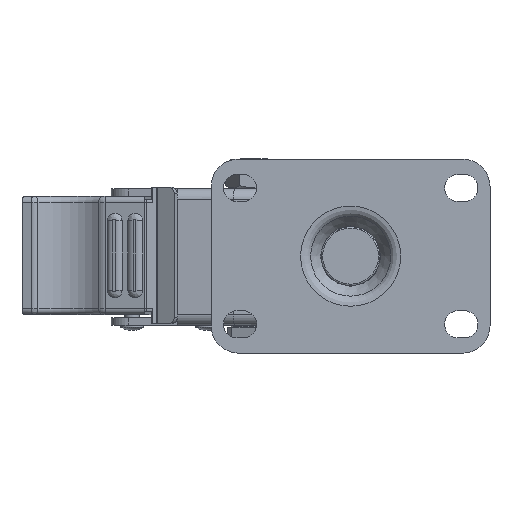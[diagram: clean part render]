
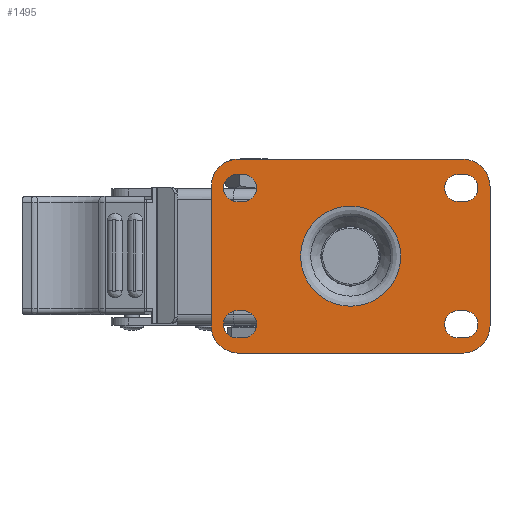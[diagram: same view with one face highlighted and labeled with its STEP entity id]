
A CAD part, top view. The second image highlights one B-rep face of the part: STEP entity #1495.
In plain terms, the highlighted planar face has unit normal (0, 0, 1).
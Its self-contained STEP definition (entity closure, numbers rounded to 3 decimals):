
#1495=ADVANCED_FACE('',(#6670,#6671,#6672,#6673,#6674,#6675),#2537,.F.);
#2537=PLANE('',#19464);
#3814=LINE('',#27675,#5233);
#3815=LINE('',#27680,#5234);
#3816=LINE('',#27683,#5235);
#3817=LINE('',#27688,#5236);
#3818=LINE('',#27691,#5237);
#3819=LINE('',#27696,#5238);
#3820=LINE('',#27699,#5239);
#3821=LINE('',#27704,#5240);
#3822=LINE('',#27707,#5241);
#3823=LINE('',#27710,#5242);
#3824=LINE('',#27714,#5243);
#3825=LINE('',#27718,#5244);
#3826=LINE('',#27720,#5245);
#3827=LINE('',#27724,#5246);
#5233=VECTOR('',#21327,1.);
#5234=VECTOR('',#21330,1.);
#5235=VECTOR('',#21333,1.);
#5236=VECTOR('',#21336,1.);
#5237=VECTOR('',#21339,1.);
#5238=VECTOR('',#21342,1.);
#5239=VECTOR('',#21345,1.);
#5240=VECTOR('',#21348,1.);
#5241=VECTOR('',#21351,1.);
#5242=VECTOR('',#21352,1.);
#5243=VECTOR('',#21355,1.);
#5244=VECTOR('',#21358,1.);
#5245=VECTOR('',#21359,1.);
#5246=VECTOR('',#21362,1.);
#6670=FACE_BOUND('',#7029,.T.);
#6671=FACE_BOUND('',#7030,.T.);
#6672=FACE_BOUND('',#7031,.T.);
#6673=FACE_BOUND('',#7032,.T.);
#6674=FACE_BOUND('',#7033,.T.);
#6675=FACE_BOUND('',#7034,.T.);
#7029=EDGE_LOOP('',(#8494));
#7030=EDGE_LOOP('',(#8495,#8496,#8497,#8498));
#7031=EDGE_LOOP('',(#8499,#8500,#8501,#8502));
#7032=EDGE_LOOP('',(#8503,#8504,#8505,#8506));
#7033=EDGE_LOOP('',(#8507,#8508,#8509,#8510));
#7034=EDGE_LOOP('',(#8511,#8512,#8513,#8514,#8515,#8516,#8517,#8518,#8519,
#8520));
#8494=ORIENTED_EDGE('',*,*,#16049,.T.);
#8495=ORIENTED_EDGE('',*,*,#16050,.F.);
#8496=ORIENTED_EDGE('',*,*,#16051,.F.);
#8497=ORIENTED_EDGE('',*,*,#16052,.F.);
#8498=ORIENTED_EDGE('',*,*,#16053,.F.);
#8499=ORIENTED_EDGE('',*,*,#16054,.F.);
#8500=ORIENTED_EDGE('',*,*,#16055,.F.);
#8501=ORIENTED_EDGE('',*,*,#16056,.F.);
#8502=ORIENTED_EDGE('',*,*,#16057,.F.);
#8503=ORIENTED_EDGE('',*,*,#16058,.F.);
#8504=ORIENTED_EDGE('',*,*,#16059,.F.);
#8505=ORIENTED_EDGE('',*,*,#16060,.F.);
#8506=ORIENTED_EDGE('',*,*,#16061,.F.);
#8507=ORIENTED_EDGE('',*,*,#16062,.F.);
#8508=ORIENTED_EDGE('',*,*,#16063,.F.);
#8509=ORIENTED_EDGE('',*,*,#16064,.F.);
#8510=ORIENTED_EDGE('',*,*,#16065,.F.);
#8511=ORIENTED_EDGE('',*,*,#16066,.T.);
#8512=ORIENTED_EDGE('',*,*,#16067,.T.);
#8513=ORIENTED_EDGE('',*,*,#16068,.T.);
#8514=ORIENTED_EDGE('',*,*,#16069,.T.);
#8515=ORIENTED_EDGE('',*,*,#16070,.T.);
#8516=ORIENTED_EDGE('',*,*,#16071,.T.);
#8517=ORIENTED_EDGE('',*,*,#16072,.T.);
#8518=ORIENTED_EDGE('',*,*,#16073,.T.);
#8519=ORIENTED_EDGE('',*,*,#16074,.T.);
#8520=ORIENTED_EDGE('',*,*,#16075,.T.);
#14142=VERTEX_POINT('',#27674);
#14143=VERTEX_POINT('',#27676);
#14144=VERTEX_POINT('',#27677);
#14145=VERTEX_POINT('',#27679);
#14146=VERTEX_POINT('',#27681);
#14147=VERTEX_POINT('',#27684);
#14148=VERTEX_POINT('',#27685);
#14149=VERTEX_POINT('',#27687);
#14150=VERTEX_POINT('',#27689);
#14151=VERTEX_POINT('',#27692);
#14152=VERTEX_POINT('',#27693);
#14153=VERTEX_POINT('',#27695);
#14154=VERTEX_POINT('',#27697);
#14155=VERTEX_POINT('',#27700);
#14156=VERTEX_POINT('',#27701);
#14157=VERTEX_POINT('',#27703);
#14158=VERTEX_POINT('',#27705);
#14159=VERTEX_POINT('',#27708);
#14160=VERTEX_POINT('',#27709);
#14161=VERTEX_POINT('',#27711);
#14162=VERTEX_POINT('',#27713);
#14163=VERTEX_POINT('',#27715);
#14164=VERTEX_POINT('',#27717);
#14165=VERTEX_POINT('',#27719);
#14166=VERTEX_POINT('',#27721);
#14167=VERTEX_POINT('',#27723);
#14168=VERTEX_POINT('',#27725);
#16049=EDGE_CURVE('',#14142,#14142,#18704,.T.);
#16050=EDGE_CURVE('',#14143,#14144,#3814,.T.);
#16051=EDGE_CURVE('',#14145,#14143,#18705,.T.);
#16052=EDGE_CURVE('',#14146,#14145,#3815,.T.);
#16053=EDGE_CURVE('',#14144,#14146,#18706,.T.);
#16054=EDGE_CURVE('',#14147,#14148,#3816,.T.);
#16055=EDGE_CURVE('',#14149,#14147,#18707,.T.);
#16056=EDGE_CURVE('',#14150,#14149,#3817,.T.);
#16057=EDGE_CURVE('',#14148,#14150,#18708,.T.);
#16058=EDGE_CURVE('',#14151,#14152,#3818,.T.);
#16059=EDGE_CURVE('',#14153,#14151,#18709,.T.);
#16060=EDGE_CURVE('',#14154,#14153,#3819,.T.);
#16061=EDGE_CURVE('',#14152,#14154,#18710,.T.);
#16062=EDGE_CURVE('',#14155,#14156,#3820,.T.);
#16063=EDGE_CURVE('',#14157,#14155,#18711,.T.);
#16064=EDGE_CURVE('',#14158,#14157,#3821,.T.);
#16065=EDGE_CURVE('',#14156,#14158,#18712,.T.);
#16066=EDGE_CURVE('',#14159,#14160,#3822,.T.);
#16067=EDGE_CURVE('',#14160,#14161,#3823,.T.);
#16068=EDGE_CURVE('',#14161,#14162,#18713,.T.);
#16069=EDGE_CURVE('',#14162,#14163,#3824,.T.);
#16070=EDGE_CURVE('',#14163,#14164,#18714,.T.);
#16071=EDGE_CURVE('',#14164,#14165,#3825,.T.);
#16072=EDGE_CURVE('',#14165,#14166,#3826,.T.);
#16073=EDGE_CURVE('',#14166,#14167,#18715,.T.);
#16074=EDGE_CURVE('',#14167,#14168,#3827,.T.);
#16075=EDGE_CURVE('',#14168,#14159,#18716,.T.);
#18704=CIRCLE('',#19451,16.522);
#18705=CIRCLE('',#19452,4.5);
#18706=CIRCLE('',#19453,4.5);
#18707=CIRCLE('',#19454,4.5);
#18708=CIRCLE('',#19455,4.5);
#18709=CIRCLE('',#19456,4.5);
#18710=CIRCLE('',#19457,4.5);
#18711=CIRCLE('',#19458,4.5);
#18712=CIRCLE('',#19459,4.5);
#18713=CIRCLE('',#19460,9.);
#18714=CIRCLE('',#19461,9.);
#18715=CIRCLE('',#19462,9.);
#18716=CIRCLE('',#19463,9.);
#19451=AXIS2_PLACEMENT_3D('',#27673,#21325,#21326);
#19452=AXIS2_PLACEMENT_3D('',#27678,#21328,#21329);
#19453=AXIS2_PLACEMENT_3D('',#27682,#21331,#21332);
#19454=AXIS2_PLACEMENT_3D('',#27686,#21334,#21335);
#19455=AXIS2_PLACEMENT_3D('',#27690,#21337,#21338);
#19456=AXIS2_PLACEMENT_3D('',#27694,#21340,#21341);
#19457=AXIS2_PLACEMENT_3D('',#27698,#21343,#21344);
#19458=AXIS2_PLACEMENT_3D('',#27702,#21346,#21347);
#19459=AXIS2_PLACEMENT_3D('',#27706,#21349,#21350);
#19460=AXIS2_PLACEMENT_3D('',#27712,#21353,#21354);
#19461=AXIS2_PLACEMENT_3D('',#27716,#21356,#21357);
#19462=AXIS2_PLACEMENT_3D('',#27722,#21360,#21361);
#19463=AXIS2_PLACEMENT_3D('',#27726,#21363,#21364);
#19464=AXIS2_PLACEMENT_3D('',#27727,#21365,#21366);
#21325=DIRECTION('',(0.,0.,-1.));
#21326=DIRECTION('',(-1.,0.,0.));
#21327=DIRECTION('',(1.,0.,0.));
#21328=DIRECTION('',(0.,0.,1.));
#21329=DIRECTION('',(1.,0.,0.));
#21330=DIRECTION('',(-1.,0.,0.));
#21331=DIRECTION('',(0.,0.,1.));
#21332=DIRECTION('',(1.,0.,0.));
#21333=DIRECTION('',(1.,0.,0.));
#21334=DIRECTION('',(0.,0.,1.));
#21335=DIRECTION('',(1.,0.,0.));
#21336=DIRECTION('',(-1.,0.,0.));
#21337=DIRECTION('',(0.,0.,1.));
#21338=DIRECTION('',(1.,0.,0.));
#21339=DIRECTION('',(1.,0.,0.));
#21340=DIRECTION('',(0.,0.,1.));
#21341=DIRECTION('',(1.,0.,0.));
#21342=DIRECTION('',(-1.,0.,0.));
#21343=DIRECTION('',(0.,0.,1.));
#21344=DIRECTION('',(1.,0.,0.));
#21345=DIRECTION('',(1.,0.,0.));
#21346=DIRECTION('',(0.,0.,1.));
#21347=DIRECTION('',(1.,0.,0.));
#21348=DIRECTION('',(-1.,0.,0.));
#21349=DIRECTION('',(0.,0.,1.));
#21350=DIRECTION('',(1.,0.,0.));
#21351=DIRECTION('',(-1.,0.,0.));
#21352=DIRECTION('',(-1.,0.,0.));
#21353=DIRECTION('',(0.,0.,1.));
#21354=DIRECTION('',(1.,0.,0.));
#21355=DIRECTION('',(0.,-1.,0.));
#21356=DIRECTION('',(0.,0.,1.));
#21357=DIRECTION('',(1.,0.,0.));
#21358=DIRECTION('',(1.,0.,0.));
#21359=DIRECTION('',(1.,0.,0.));
#21360=DIRECTION('',(0.,0.,1.));
#21361=DIRECTION('',(-1.,0.,0.));
#21362=DIRECTION('',(0.,1.,0.));
#21363=DIRECTION('',(0.,0.,1.));
#21364=DIRECTION('',(-1.,0.,0.));
#21365=DIRECTION('',(0.,0.,-1.));
#21366=DIRECTION('',(1.,0.,0.));
#27673=CARTESIAN_POINT('',(0.,0.,0.));
#27674=CARTESIAN_POINT('',(-16.522,0.,0.));
#27675=CARTESIAN_POINT('',(-37.5,18.,0.));
#27676=CARTESIAN_POINT('',(-37.5,18.,0.));
#27677=CARTESIAN_POINT('',(-35.5,18.,0.));
#27678=CARTESIAN_POINT('',(-37.5,22.5,0.));
#27679=CARTESIAN_POINT('',(-37.5,27.,0.));
#27680=CARTESIAN_POINT('',(-37.5,27.,0.));
#27681=CARTESIAN_POINT('',(-35.5,27.,0.));
#27682=CARTESIAN_POINT('',(-35.5,22.5,0.));
#27683=CARTESIAN_POINT('',(-37.5,-27.,0.));
#27684=CARTESIAN_POINT('',(-37.5,-27.,0.));
#27685=CARTESIAN_POINT('',(-35.5,-27.,0.));
#27686=CARTESIAN_POINT('',(-37.5,-22.5,0.));
#27687=CARTESIAN_POINT('',(-37.5,-18.,0.));
#27688=CARTESIAN_POINT('',(-37.5,-18.,0.));
#27689=CARTESIAN_POINT('',(-35.5,-18.,0.));
#27690=CARTESIAN_POINT('',(-35.5,-22.5,0.));
#27691=CARTESIAN_POINT('',(35.5,-27.,0.));
#27692=CARTESIAN_POINT('',(35.5,-27.,0.));
#27693=CARTESIAN_POINT('',(37.5,-27.,0.));
#27694=CARTESIAN_POINT('',(35.5,-22.5,0.));
#27695=CARTESIAN_POINT('',(35.5,-18.,0.));
#27696=CARTESIAN_POINT('',(35.5,-18.,0.));
#27697=CARTESIAN_POINT('',(37.5,-18.,0.));
#27698=CARTESIAN_POINT('',(37.5,-22.5,0.));
#27699=CARTESIAN_POINT('',(35.5,18.,0.));
#27700=CARTESIAN_POINT('',(35.5,18.,0.));
#27701=CARTESIAN_POINT('',(37.5,18.,0.));
#27702=CARTESIAN_POINT('',(35.5,22.5,0.));
#27703=CARTESIAN_POINT('',(35.5,27.,0.));
#27704=CARTESIAN_POINT('',(35.5,27.,0.));
#27705=CARTESIAN_POINT('',(37.5,27.,0.));
#27706=CARTESIAN_POINT('',(37.5,22.5,0.));
#27707=CARTESIAN_POINT('',(-37.,32.,0.));
#27708=CARTESIAN_POINT('',(37.,32.,0.));
#27709=CARTESIAN_POINT('',(0.,32.,0.));
#27710=CARTESIAN_POINT('',(-37.,32.,0.));
#27711=CARTESIAN_POINT('',(-37.,32.,0.));
#27712=CARTESIAN_POINT('',(-37.,23.,0.));
#27713=CARTESIAN_POINT('',(-46.,23.,0.));
#27714=CARTESIAN_POINT('',(-46.,23.,0.));
#27715=CARTESIAN_POINT('',(-46.,-23.,0.));
#27716=CARTESIAN_POINT('',(-37.,-23.,0.));
#27717=CARTESIAN_POINT('',(-37.,-32.,0.));
#27718=CARTESIAN_POINT('',(-37.,-32.,0.));
#27719=CARTESIAN_POINT('',(0.,-32.,0.));
#27720=CARTESIAN_POINT('',(-37.,-32.,0.));
#27721=CARTESIAN_POINT('',(37.,-32.,0.));
#27722=CARTESIAN_POINT('',(37.,-23.,0.));
#27723=CARTESIAN_POINT('',(46.,-23.,0.));
#27724=CARTESIAN_POINT('',(46.,23.,0.));
#27725=CARTESIAN_POINT('',(46.,23.,0.));
#27726=CARTESIAN_POINT('',(37.,23.,0.));
#27727=CARTESIAN_POINT('',(-32.,0.,0.));
